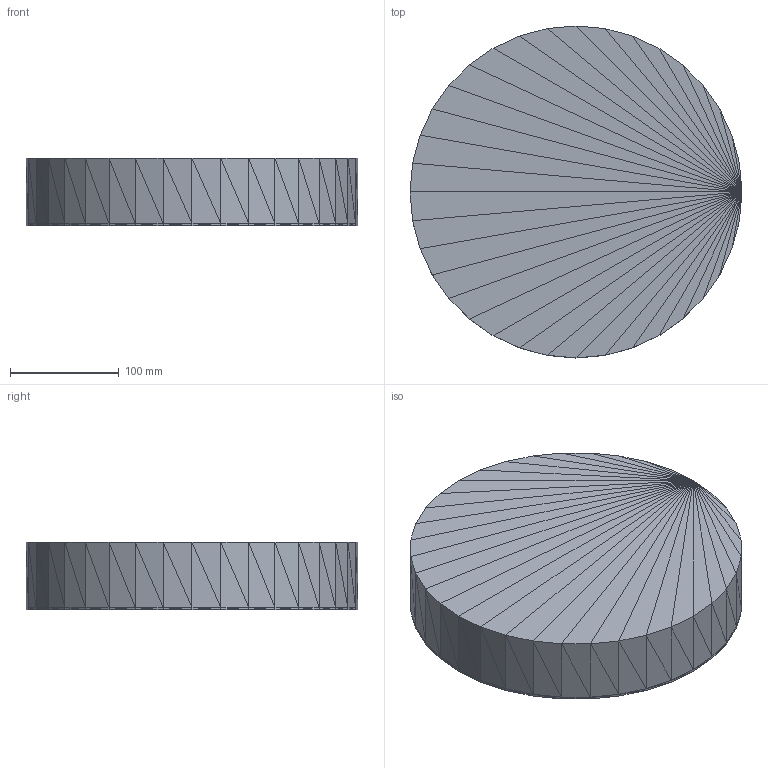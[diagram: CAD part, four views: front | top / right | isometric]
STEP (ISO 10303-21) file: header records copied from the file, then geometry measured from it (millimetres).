
FILE_DESCRIPTION(('ISINAC STEP AP214'),'2;1');
FILE_NAME('ISINAC_CIR.305_60mm_IMANTADA','2026-05-03T10:49:19',('ISINAC'),('www.isinac.com'),'ISINAC BIM Generator 1.0','','');
FILE_SCHEMA(('AUTOMOTIVE_DESIGN'));
Length unit declared in the file: millimetre
Products named in the file (1): ISINAC_CIR.305_60mm_IMANTADA
Bounding box: 305 x 305 x 62 mm (x, y, z)
Surface area: 350097.4 mm2 (no closed solid volume)
Topology: 0 solids, 280 shells, 280 faces, 840 edges, 840 vertices
Faces by surface type: plane 280
Entity records: 3093 total; most frequent: CARTESIAN_POINT 1120, DIRECTION 560, POLY_LOOP 280, FACE_OUTER_BOUND 280, AXIS2_PLACEMENT_3D 280, PLANE 280, FACE_SURFACE 280, CLOSED_SHELL 1
